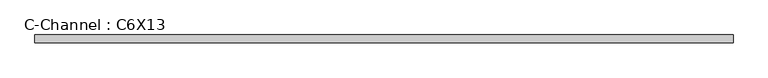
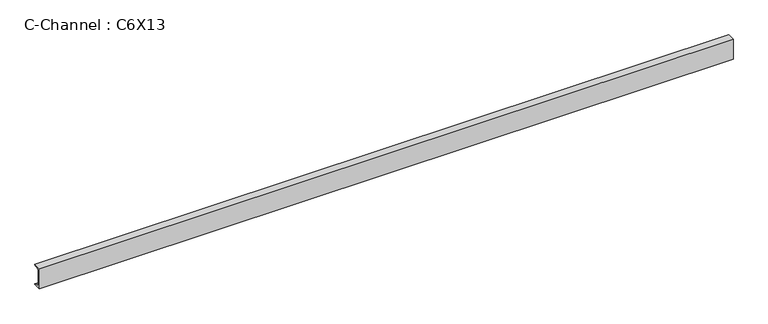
"""IFC4 building model written with IfcOpenShell, lengths in millimetres: beam geometry, C-Channel : C6X13."""

from ifc_helpers import new_model, si_unit, point, frame, frame_2d, origin, place, context, project, spatial, polyline, circle_curve, trimmed, segment, composite_curve, outline, extrude, source, transform, mapped, element, save


def c_channel_c6x13_2b48402f(model_context):
    return source(origin(), model_context, "Body", "SweptSolid", [
        extrude(outline(composite_curve([segment(polyline([(-13.0556, 76.2), (41.8084, 76.2)]), True, "CONTINUOUS"), segment(trimmed(circle_curve(frame_2d((33.0962, 76.2)), 8.7122), [point((41.8084, 76.2))], [point((33.0962, 67.4878))], False, "CARTESIAN"), True, "CONTINUOUS"), segment(polyline([(33.0962, 67.4878), (-1.9558, 61.9361086), (-1.9558, -61.9361086), (33.0962, -67.4878)]), True, "CONTINUOUS"), segment(trimmed(circle_curve(frame_2d((33.0962, -76.2)), 8.7122), [point((33.0962, -67.4878))], [point((41.8084, -76.2))], False, "CARTESIAN"), True, "CONTINUOUS"), segment(polyline([(41.8084, -76.2), (-13.0556, -76.2), (-13.0556, 76.2)]), True, "CONTINUOUS")], self_intersect=False)), frame((-2487.3009793, 0.0, 0.0), z_axis=(1.0, 0.0, 0.0), x_axis=(0.0, 1.0, 0.0)), (0.0, 0.0, 1.0), 4974.5869209),
    ])


if __name__ == "__main__":
    model = new_model("IFC4")
    model_context = context("Model", 3, world=origin())
    ifc_project = project(units=[si_unit("LENGTHUNIT", "METRE", prefix="MILLI")], contexts=[model_context])
    site = spatial("IfcSite", under=ifc_project)
    building = spatial("IfcBuilding", under=site)
    placement = place(None, origin())
    c_channel_c6x13_shape = c_channel_c6x13_2b48402f(model_context)
    element("IfcBeam", 1, ObjectType="C-Channel : C6X13", at=placement, inside=building, context=model_context, shape_type="MappedRepresentation", body=[
        mapped(c_channel_c6x13_shape, transform((0.0, 0.0, 0.0), x_axis=(1.0, 0.0, 0.0), y_axis=(0.0, 1.0, 0.0), z_axis=(0.0, 0.0, 1.0))),
    ])
    save(model, "model.ifc")
